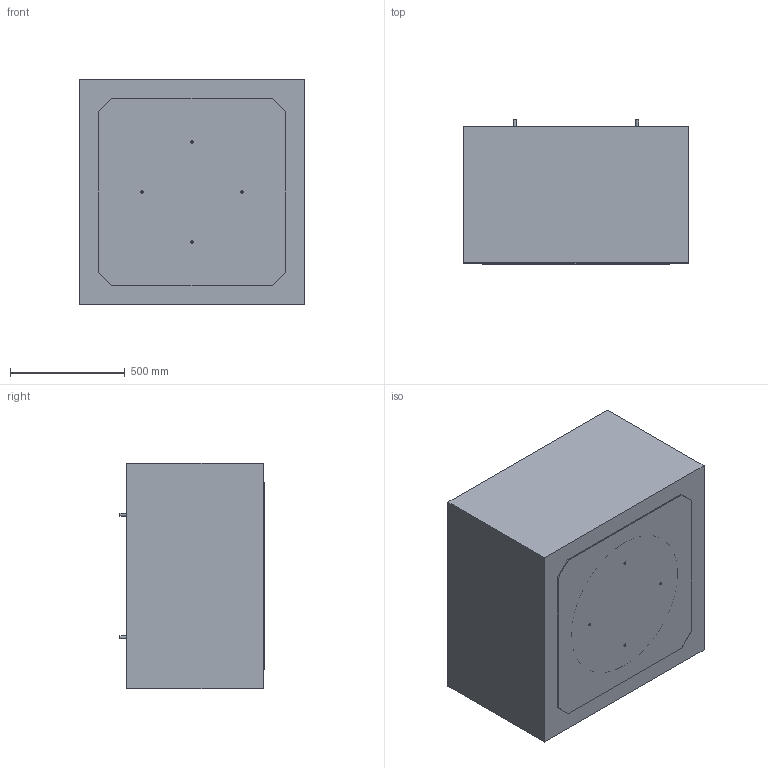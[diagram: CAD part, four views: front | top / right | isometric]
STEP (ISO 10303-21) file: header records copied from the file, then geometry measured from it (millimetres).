
FILE_DESCRIPTION(/* description */ (''),/* implementation_level */ '2;1');
FILE_NAME(/* name */ 'Z:\Output\SSD 400-05291-003.stp',/* time_stamp */ '2017-06-13T15:20:58+02:00',/* author */ ('engineering1'),/* organization */ (''),/* preprocessor_version */ 'ST-DEVELOPER v16.5',/* originating_system */ 'Autodesk Inventor 2017',/* authorisation */ '');
FILE_SCHEMA (('AUTOMOTIVE_DESIGN { 1 0 10303 214 3 1 1 }'));
Length unit declared in the file: millimetre
Products named in the file (1): FSD-1
Bounding box: 985 x 630 x 985 mm (x, y, z)
Volume: 376255476.1 mm3; surface area: 5546894.8 mm2
Topology: 5 solids, 5 shells, 38 faces, 75 edges, 50 vertices
Faces by surface type: plane 29, cylinder 9
Full cylindrical faces by diameter (mm): 11 x4, 12 x4, 656.667 x1
Entity records: 982 total; most frequent: DIRECTION 162, CARTESIAN_POINT 155, ORIENTED_EDGE 132, EDGE_CURVE 66, EDGE_LOOP 58, AXIS2_PLACEMENT_3D 57, VERTEX_POINT 50, LINE 48
